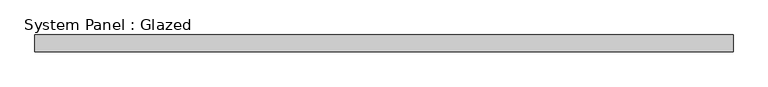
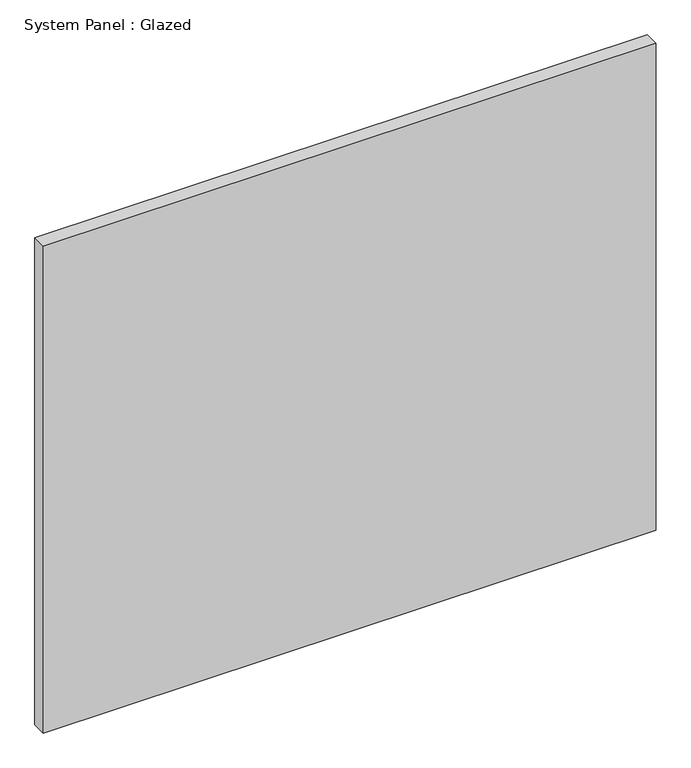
"""IFC4 building model written with IfcOpenShell, lengths in millimetres: plate geometry, System Panel : Glazed."""

from ifc_helpers import new_model, si_unit, origin, origin_with_axes, place, context, project, spatial, polyline, outline, extrude, source, transform, mapped, element, save


def system_panel_glazed_06798904(model_context):
    return source(origin(), model_context, "Body", "SweptSolid", [
        extrude(outline(polyline([(519.9414771, 24.5), (-519.9414771, 24.5), (-519.9414771, 49.5), (519.9414771, 49.5), (519.9414771, 24.5)])), origin_with_axes(), (0.0, 0.0, 1.0), 873.427975),
    ])


if __name__ == "__main__":
    model = new_model("IFC4")
    model_context = context("Model", 3, world=origin())
    ifc_project = project(units=[si_unit("LENGTHUNIT", "METRE", prefix="MILLI")], contexts=[model_context])
    site = spatial("IfcSite", under=ifc_project)
    building = spatial("IfcBuilding", under=site)
    placement = place(None, origin())
    system_panel_glazed_shape = system_panel_glazed_06798904(model_context)
    element("IfcPlate", 1, ObjectType="System Panel : Glazed", at=placement, inside=building, context=model_context, shape_type="MappedRepresentation", body=[
        mapped(system_panel_glazed_shape, transform((0.0, 0.0, 0.0), x_axis=(1.0, 0.0, 0.0), y_axis=(0.0, 1.0, 0.0), z_axis=(0.0, 0.0, 1.0))),
    ])
    save(model, "model.ifc")
